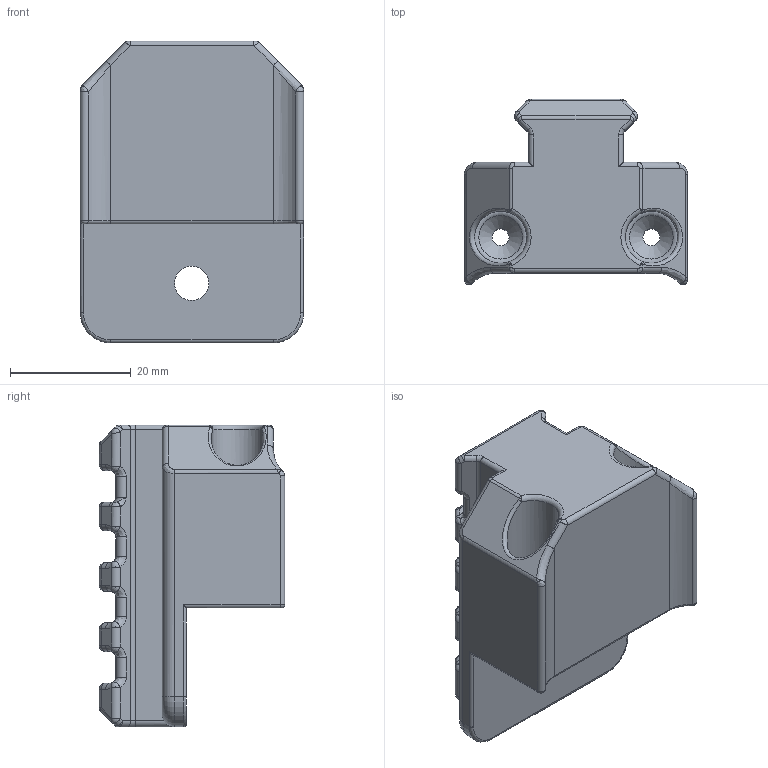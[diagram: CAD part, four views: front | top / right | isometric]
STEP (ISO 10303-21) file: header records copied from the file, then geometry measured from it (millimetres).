
FILE_DESCRIPTION(/* description */ ('STEP AP242 Edition 2','CAx-IF Rec.Pracs.---Representation and Presentation of Product Manufacturing Information (PMI)---4.0---2014-10-13','CAx-IF Rec.Pracs.---3D Tessellated Geometry---0.4---2014-09-14','2;1','CAx-IF Rec.Pracs.---User Defined Attributes---1.5---2016-08-15'),/* implementation_level */ '2;1');
FILE_NAME(/* name */ 'Assembly 1 - Full Height Stock Block',/* time_stamp */ '2026-04-09T23:42:40Z',/* author */ (''),/* organization */ (''),/* preprocessor_version */ 'ST-DEVELOPER v20',/* originating_system */ 'ONSHAPE BY PTC INC, 1.213',/* authorisation */ ' ');
FILE_SCHEMA (('AP242_MANAGED_MODEL_BASED_3D_ENGINEERING_MIM_LF { 1 0 10303 442 3 1 4 }'));
Length unit declared in the file: metre
Products named in the file (1): Full Height Stock Block
Bounding box: 37 x 30.76 x 50.05 mm (x, y, z)
Volume: 27160.4 mm3; surface area: 8931.5 mm2
Topology: 1 solids, 1 shells, 303 faces, 728 edges, 377 vertices
Faces by surface type: cylinder 125, bspline 64, plane 48, sphere 40, torus 24, cone 2
Full cylindrical faces by diameter (mm): 2.8 x2, 5.7 x1, 8.628 x2, 10 x1
Entity records: 9043 total; most frequent: CARTESIAN_POINT 2493, DIRECTION 1465, ORIENTED_EDGE 1328, EDGE_CURVE 664, AXIS2_PLACEMENT_3D 609, VERTEX_POINT 371, EDGE_LOOP 317, FACE_BOUND 317
